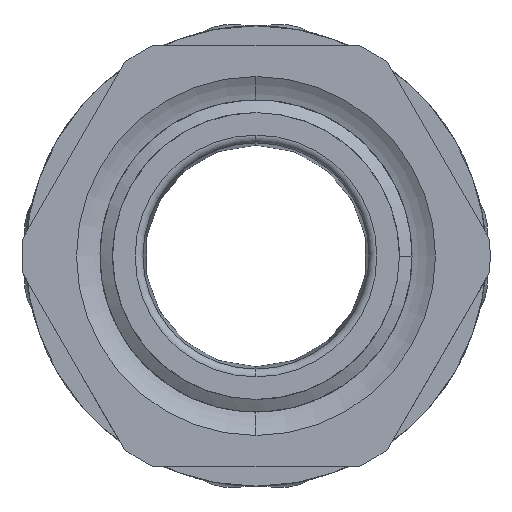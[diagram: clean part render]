
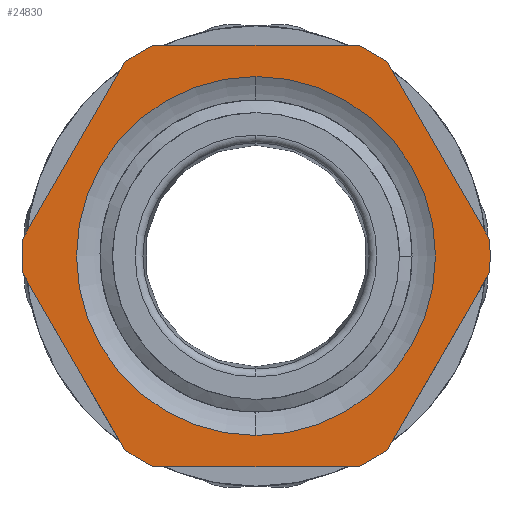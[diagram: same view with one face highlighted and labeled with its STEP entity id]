
A CAD part, front view. The second image highlights one B-rep face of the part: STEP entity #24830.
In plain terms, the highlighted planar face has unit normal (0, -1, 0).
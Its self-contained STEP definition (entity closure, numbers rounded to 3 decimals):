
#59 = VERTEX_POINT ( 'NONE', #14528 ) ;
#202 = ORIENTED_EDGE ( 'NONE', *, *, #1679, .T. ) ;
#454 = ORIENTED_EDGE ( 'NONE', *, *, #4565, .T. ) ;
#581 = CARTESIAN_POINT ( 'NONE',  ( 0., 10., 0. ) ) ;
#671 = DIRECTION ( 'NONE',  ( 0., 0., -1. ) ) ;
#820 = VECTOR ( 'NONE', #8735, 1000. ) ;
#909 = DIRECTION ( 'NONE',  ( 0., -1., 0. ) ) ;
#958 = ORIENTED_EDGE ( 'NONE', *, *, #12242, .T. ) ;
#1113 = DIRECTION ( 'NONE',  ( 0., 0., -1. ) ) ;
#1224 = FACE_BOUND ( 'NONE', #5953, .T. ) ;
#1549 = ORIENTED_EDGE ( 'NONE', *, *, #1864, .T. ) ;
#1679 = EDGE_CURVE ( 'NONE', #20026, #14903, #13169, .T. ) ;
#1864 = EDGE_CURVE ( 'NONE', #24069, #20026, #14603, .T. ) ;
#1963 = CIRCLE ( 'NONE', #23888, 15. ) ;
#3203 = VERTEX_POINT ( 'NONE', #13030 ) ;
#3485 = AXIS2_PLACEMENT_3D ( 'NONE', #581, #14205, #671 ) ;
#4479 = AXIS2_PLACEMENT_3D ( 'NONE', #12166, #909, #1113 ) ;
#4565 = EDGE_CURVE ( 'NONE', #14557, #25925, #5679, .T. ) ;
#4696 = LINE ( 'NONE', #17950, #820 ) ;
#4921 = VERTEX_POINT ( 'NONE', #23821 ) ;
#5231 = CARTESIAN_POINT ( 'NONE',  ( 11.5, 10., 13.5 ) ) ;
#5356 = CARTESIAN_POINT ( 'NONE',  ( -8.422, 10., -12.412 ) ) ;
#5636 = DIRECTION ( 'NONE',  ( 0., -1., 0. ) ) ;
#5679 = LINE ( 'NONE', #24425, #28083 ) ;
#5798 = FACE_OUTER_BOUND ( 'NONE', #21863, .T. ) ;
#5871 = EDGE_CURVE ( 'NONE', #9805, #20644, #13290, .T. ) ;
#5953 = EDGE_LOOP ( 'NONE', ( #26715, #24826 ) ) ;
#6152 = EDGE_CURVE ( 'NONE', #10501, #14557, #27902, .T. ) ;
#6196 = VERTEX_POINT ( 'NONE', #26463 ) ;
#6219 = AXIS2_PLACEMENT_3D ( 'NONE', #20683, #6805, #18196 ) ;
#6633 = EDGE_CURVE ( 'NONE', #25925, #4921, #1963, .T. ) ;
#6757 = AXIS2_PLACEMENT_3D ( 'NONE', #16604, #7667, #14914 ) ;
#6805 = DIRECTION ( 'NONE',  ( 0., -1., 0. ) ) ;
#6967 = CARTESIAN_POINT ( 'NONE',  ( 14.961, 10., -1.088 ) ) ;
#7291 = VERTEX_POINT ( 'NONE', #17403 ) ;
#7438 = VERTEX_POINT ( 'NONE', #27765 ) ;
#7600 = DIRECTION ( 'NONE',  ( 0., 0., -1. ) ) ;
#7667 = DIRECTION ( 'NONE',  ( 0., -1., 0. ) ) ;
#8013 = ORIENTED_EDGE ( 'NONE', *, *, #22267, .T. ) ;
#8476 = LINE ( 'NONE', #25319, #13068 ) ;
#8735 = DIRECTION ( 'NONE',  ( 0.5, 0., 0.866 ) ) ;
#9294 = VECTOR ( 'NONE', #13387, 1000. ) ;
#9805 = VERTEX_POINT ( 'NONE', #15042 ) ;
#10029 = ORIENTED_EDGE ( 'NONE', *, *, #5871, .T. ) ;
#10202 = EDGE_CURVE ( 'NONE', #4921, #3203, #25264, .T. ) ;
#10501 = VERTEX_POINT ( 'NONE', #6967 ) ;
#11111 = CARTESIAN_POINT ( 'NONE',  ( 14.961, 10., 1.088 ) ) ;
#12166 = CARTESIAN_POINT ( 'NONE',  ( 0., 10., 0. ) ) ;
#12204 = CARTESIAN_POINT ( 'NONE',  ( 0., 10., 0. ) ) ;
#12242 = EDGE_CURVE ( 'NONE', #7291, #9805, #8476, .T. ) ;
#13030 = CARTESIAN_POINT ( 'NONE',  ( -6.538, 10., 13.5 ) ) ;
#13068 = VECTOR ( 'NONE', #27430, 1000. ) ;
#13169 = LINE ( 'NONE', #17948, #9294 ) ;
#13261 = DIRECTION ( 'NONE',  ( 0., 0., -1. ) ) ;
#13290 = CIRCLE ( 'NONE', #17952, 15. ) ;
#13387 = DIRECTION ( 'NONE',  ( 0.5, 0., -0.866 ) ) ;
#14137 = EDGE_CURVE ( 'NONE', #6196, #7438, #26539, .T. ) ;
#14205 = DIRECTION ( 'NONE',  ( 0., -1., 0. ) ) ;
#14336 = DIRECTION ( 'NONE',  ( 0., -1., 0. ) ) ;
#14478 = DIRECTION ( 'NONE',  ( 0., 0., -1. ) ) ;
#14528 = CARTESIAN_POINT ( 'NONE',  ( -8.422, 10., 12.412 ) ) ;
#14546 = CARTESIAN_POINT ( 'NONE',  ( 0., 10., 0. ) ) ;
#14557 = VERTEX_POINT ( 'NONE', #11111 ) ;
#14603 = CIRCLE ( 'NONE', #24584, 15. ) ;
#14802 = AXIS2_PLACEMENT_3D ( 'NONE', #14546, #5636, #7600 ) ;
#14903 = VERTEX_POINT ( 'NONE', #5356 ) ;
#14914 = DIRECTION ( 'NONE',  ( 0., 0., -1. ) ) ;
#15042 = CARTESIAN_POINT ( 'NONE',  ( 6.538, 10., -13.5 ) ) ;
#15381 = CARTESIAN_POINT ( 'NONE',  ( 8.422, 10., 12.412 ) ) ;
#15938 = CIRCLE ( 'NONE', #14802, 11.5 ) ;
#16604 = CARTESIAN_POINT ( 'NONE',  ( 0., 10., 0. ) ) ;
#16946 = ORIENTED_EDGE ( 'NONE', *, *, #6152, .T. ) ;
#17403 = CARTESIAN_POINT ( 'NONE',  ( -6.538, 10., -13.5 ) ) ;
#17716 = AXIS2_PLACEMENT_3D ( 'NONE', #26921, #18121, #13261 ) ;
#17776 = ORIENTED_EDGE ( 'NONE', *, *, #26043, .T. ) ;
#17948 = CARTESIAN_POINT ( 'NONE',  ( -8.816, 10., -11.73 ) ) ;
#17950 = CARTESIAN_POINT ( 'NONE',  ( 14.566, 10., -1.77 ) ) ;
#17952 = AXIS2_PLACEMENT_3D ( 'NONE', #12204, #19133, #14478 ) ;
#18004 = CARTESIAN_POINT ( 'NONE',  ( -14.961, 10., 1.088 ) ) ;
#18121 = DIRECTION ( 'NONE',  ( 0., -1., 0. ) ) ;
#18196 = DIRECTION ( 'NONE',  ( 0., 0., -1. ) ) ;
#18209 = ORIENTED_EDGE ( 'NONE', *, *, #6633, .T. ) ;
#18335 = CARTESIAN_POINT ( 'NONE',  ( 0., 10., 0. ) ) ;
#19133 = DIRECTION ( 'NONE',  ( 0., -1., 0. ) ) ;
#19196 = VECTOR ( 'NONE', #24763, 1000. ) ;
#19647 = EDGE_CURVE ( 'NONE', #59, #24069, #24918, .T. ) ;
#20026 = VERTEX_POINT ( 'NONE', #25332 ) ;
#20292 = PLANE ( 'NONE',  #6219 ) ;
#20438 = EDGE_CURVE ( 'NONE', #14903, #7291, #27033, .T. ) ;
#20644 = VERTEX_POINT ( 'NONE', #21095 ) ;
#20683 = CARTESIAN_POINT ( 'NONE',  ( 11.5, 10., 0. ) ) ;
#20732 = DIRECTION ( 'NONE',  ( 0., 0., -1. ) ) ;
#21042 = ORIENTED_EDGE ( 'NONE', *, *, #19647, .T. ) ;
#21095 = CARTESIAN_POINT ( 'NONE',  ( 8.422, 10., -12.412 ) ) ;
#21863 = EDGE_LOOP ( 'NONE', ( #10029, #17776, #16946, #454, #18209, #22724, #8013, #21042, #1549, #202, #24821, #958 ) ) ;
#22267 = EDGE_CURVE ( 'NONE', #3203, #59, #26979, .T. ) ;
#22724 = ORIENTED_EDGE ( 'NONE', *, *, #10202, .T. ) ;
#23467 = VECTOR ( 'NONE', #28075, 1000. ) ;
#23821 = CARTESIAN_POINT ( 'NONE',  ( 6.538, 10., 13.5 ) ) ;
#23888 = AXIS2_PLACEMENT_3D ( 'NONE', #27801, #14336, #25503 ) ;
#24069 = VERTEX_POINT ( 'NONE', #18004 ) ;
#24425 = CARTESIAN_POINT ( 'NONE',  ( 14.566, 10., 1.77 ) ) ;
#24584 = AXIS2_PLACEMENT_3D ( 'NONE', #18335, #25224, #20732 ) ;
#24763 = DIRECTION ( 'NONE',  ( -0.5, 0., -0.866 ) ) ;
#24821 = ORIENTED_EDGE ( 'NONE', *, *, #20438, .T. ) ;
#24826 = ORIENTED_EDGE ( 'NONE', *, *, #28144, .F. ) ;
#24830 = ADVANCED_FACE ( 'NONE', ( #1224, #5798 ), #20292, .T. ) ;
#24918 = LINE ( 'NONE', #28483, #19196 ) ;
#25224 = DIRECTION ( 'NONE',  ( 0., -1., 0. ) ) ;
#25264 = LINE ( 'NONE', #5231, #23467 ) ;
#25319 = CARTESIAN_POINT ( 'NONE',  ( 11.5, 10., -13.5 ) ) ;
#25332 = CARTESIAN_POINT ( 'NONE',  ( -14.961, 10., -1.088 ) ) ;
#25503 = DIRECTION ( 'NONE',  ( 0., 0., -1. ) ) ;
#25925 = VERTEX_POINT ( 'NONE', #15381 ) ;
#26043 = EDGE_CURVE ( 'NONE', #20644, #10501, #4696, .T. ) ;
#26463 = CARTESIAN_POINT ( 'NONE',  ( 0., 10., -11.5 ) ) ;
#26539 = CIRCLE ( 'NONE', #3485, 11.5 ) ;
#26562 = DIRECTION ( 'NONE',  ( -0.5, 0., 0.866 ) ) ;
#26715 = ORIENTED_EDGE ( 'NONE', *, *, #14137, .F. ) ;
#26921 = CARTESIAN_POINT ( 'NONE',  ( 0., 10., 0. ) ) ;
#26979 = CIRCLE ( 'NONE', #4479, 15. ) ;
#27033 = CIRCLE ( 'NONE', #17716, 15. ) ;
#27430 = DIRECTION ( 'NONE',  ( 1., 0., 0. ) ) ;
#27765 = CARTESIAN_POINT ( 'NONE',  ( 0., 10., 11.5 ) ) ;
#27801 = CARTESIAN_POINT ( 'NONE',  ( 0., 10., 0. ) ) ;
#27902 = CIRCLE ( 'NONE', #6757, 15. ) ;
#28075 = DIRECTION ( 'NONE',  ( -1., 0., 0. ) ) ;
#28083 = VECTOR ( 'NONE', #26562, 1000. ) ;
#28144 = EDGE_CURVE ( 'NONE', #7438, #6196, #15938, .T. ) ;
#28483 = CARTESIAN_POINT ( 'NONE',  ( -8.816, 10., 11.73 ) ) ;
